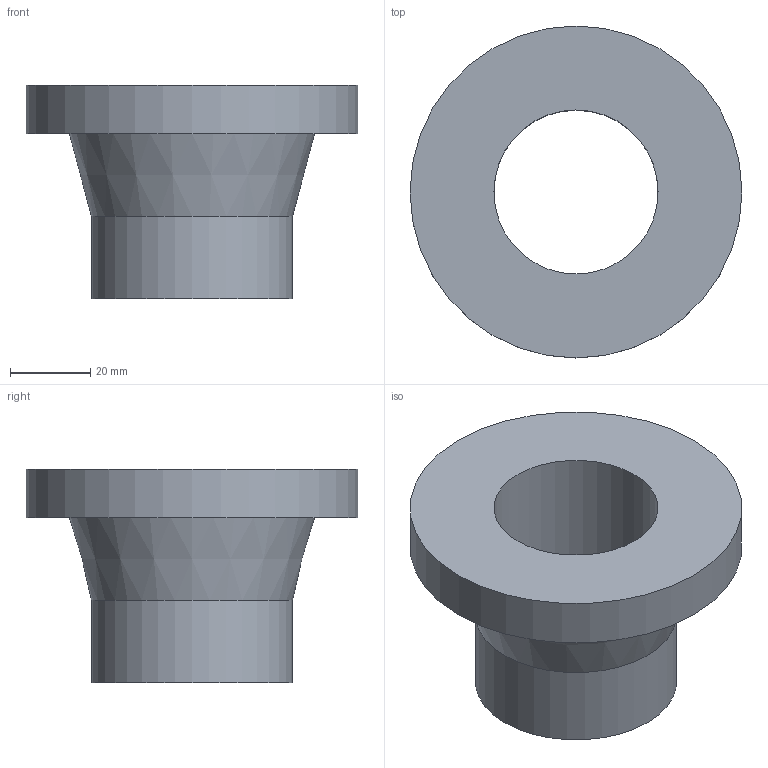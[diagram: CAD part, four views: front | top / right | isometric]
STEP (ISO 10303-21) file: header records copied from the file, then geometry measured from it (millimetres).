
FILE_DESCRIPTION (( 'STEP AP203' ), '1' );
FILE_NAME ('581135015.STEP', '2015-12-04T19:49:55', ( '' ), ( '' ), 'SwSTEP 2.0', 'SolidWorks 2015', '' );
FILE_SCHEMA (( 'CONFIG_CONTROL_DESIGN' ));
Length unit declared in the file: inch
Products named in the file (1): 581135015
Bounding box: 82.55 x 82.55 x 53 mm (x, y, z)
Volume: 84953 mm3; surface area: 23957 mm2
Topology: 1 solids, 1 shells, 7 faces, 11 edges, 7 vertices
Faces by surface type: cylinder 3, plane 3, cone 1
Full cylindrical faces by diameter (mm): 40.8 x1, 50 x1, 82.55 x1
Entity records: 227 total; most frequent: DIRECTION 30, CARTESIAN_POINT 22, AXIS2_PLACEMENT_3D 15, ORIENTED_EDGE 14, EDGE_LOOP 14, FACE_OUTER_BOUND 10, PERSON_AND_ORGANIZATION 8, EDGE_CURVE 7
